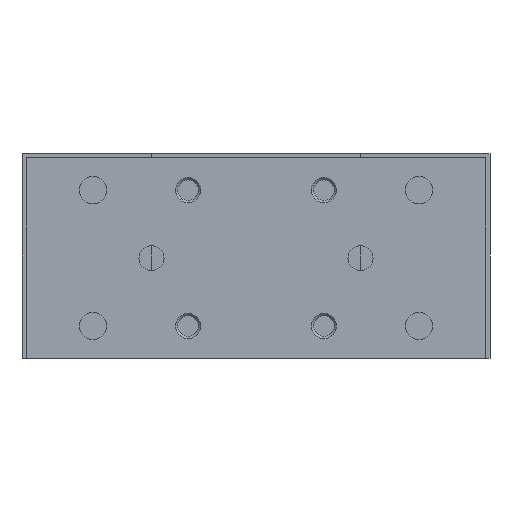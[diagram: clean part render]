
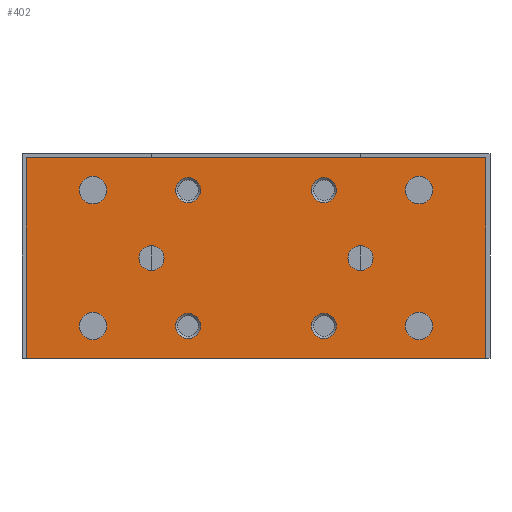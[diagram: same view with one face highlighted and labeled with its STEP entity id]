
A CAD part, left-side view. The second image highlights one B-rep face of the part: STEP entity #402.
In plain terms, the highlighted planar face has unit normal (-1, 0, 0).
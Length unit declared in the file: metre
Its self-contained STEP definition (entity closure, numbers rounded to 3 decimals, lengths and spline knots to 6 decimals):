
#402 = ADVANCED_FACE( '', ( #1049, #1050, #1051, #1052, #1053, #1054, #1055, #1056, #1057, #1058, #1059 ), #1060, .F. );
#1049 = FACE_BOUND( '', #2117, .T. );
#1050 = FACE_BOUND( '', #2118, .T. );
#1051 = FACE_BOUND( '', #2119, .T. );
#1052 = FACE_BOUND( '', #2120, .T. );
#1053 = FACE_BOUND( '', #2121, .T. );
#1054 = FACE_BOUND( '', #2122, .T. );
#1055 = FACE_BOUND( '', #2123, .T. );
#1056 = FACE_BOUND( '', #2124, .T. );
#1057 = FACE_BOUND( '', #2125, .T. );
#1058 = FACE_BOUND( '', #2126, .T. );
#1059 = FACE_OUTER_BOUND( '', #2127, .T. );
#1060 = PLANE( '', #2128 );
#2117 = EDGE_LOOP( '', ( #3344 ) );
#2118 = EDGE_LOOP( '', ( #3345 ) );
#2119 = EDGE_LOOP( '', ( #3346 ) );
#2120 = EDGE_LOOP( '', ( #3347 ) );
#2121 = EDGE_LOOP( '', ( #3348 ) );
#2122 = EDGE_LOOP( '', ( #3349 ) );
#2123 = EDGE_LOOP( '', ( #3350 ) );
#2124 = EDGE_LOOP( '', ( #3351 ) );
#2125 = EDGE_LOOP( '', ( #3352 ) );
#2126 = EDGE_LOOP( '', ( #3353 ) );
#2127 = EDGE_LOOP( '', ( #3354, #3355, #3356, #3357 ) );
#2128 = AXIS2_PLACEMENT_3D( '', #3358, #3359, #3360 );
#3344 = ORIENTED_EDGE( '', *, *, #5037, .T. );
#3345 = ORIENTED_EDGE( '', *, *, #5038, .T. );
#3346 = ORIENTED_EDGE( '', *, *, #5039, .T. );
#3347 = ORIENTED_EDGE( '', *, *, #5040, .T. );
#3348 = ORIENTED_EDGE( '', *, *, #5041, .F. );
#3349 = ORIENTED_EDGE( '', *, *, #5042, .T. );
#3350 = ORIENTED_EDGE( '', *, *, #5043, .T. );
#3351 = ORIENTED_EDGE( '', *, *, #5032, .F. );
#3352 = ORIENTED_EDGE( '', *, *, #5044, .F. );
#3353 = ORIENTED_EDGE( '', *, *, #5045, .T. );
#3354 = ORIENTED_EDGE( '', *, *, #5046, .T. );
#3355 = ORIENTED_EDGE( '', *, *, #5047, .T. );
#3356 = ORIENTED_EDGE( '', *, *, #5048, .T. );
#3357 = ORIENTED_EDGE( '', *, *, #5049, .T. );
#3358 = CARTESIAN_POINT( '', ( -0.07925, -0.055, -0.049 ) );
#3359 = DIRECTION( '', ( 1., 0., 0. ) );
#3360 = DIRECTION( '', ( 0., 1., 0. ) );
#5032 = EDGE_CURVE( '', #5822, #5822, #5823, .T. );
#5037 = EDGE_CURVE( '', #5830, #5830, #5831, .T. );
#5038 = EDGE_CURVE( '', #5832, #5832, #5833, .T. );
#5039 = EDGE_CURVE( '', #5834, #5834, #5835, .T. );
#5040 = EDGE_CURVE( '', #5836, #5836, #5837, .T. );
#5041 = EDGE_CURVE( '', #5838, #5838, #5839, .T. );
#5042 = EDGE_CURVE( '', #5840, #5840, #5841, .T. );
#5043 = EDGE_CURVE( '', #5842, #5842, #5843, .T. );
#5044 = EDGE_CURVE( '', #5844, #5844, #5845, .T. );
#5045 = EDGE_CURVE( '', #5846, #5846, #5847, .T. );
#5046 = EDGE_CURVE( '', #5848, #5849, #5850, .T. );
#5047 = EDGE_CURVE( '', #5849, #5851, #5852, .T. );
#5048 = EDGE_CURVE( '', #5851, #5853, #5854, .T. );
#5049 = EDGE_CURVE( '', #5853, #5848, #5855, .T. );
#5822 = VERTEX_POINT( '', #6908 );
#5823 = CIRCLE( '', #6909, 0.003 );
#5830 = VERTEX_POINT( '', #6916 );
#5831 = CIRCLE( '', #6917, 0.0033 );
#5832 = VERTEX_POINT( '', #6918 );
#5833 = CIRCLE( '', #6919, 0.0033 );
#5834 = VERTEX_POINT( '', #6920 );
#5835 = CIRCLE( '', #6921, 0.0033 );
#5836 = VERTEX_POINT( '', #6922 );
#5837 = CIRCLE( '', #6923, 0.0033 );
#5838 = VERTEX_POINT( '', #6924 );
#5839 = CIRCLE( '', #6925, 0.003 );
#5840 = VERTEX_POINT( '', #6926 );
#5841 = CIRCLE( '', #6927, 0.003 );
#5842 = VERTEX_POINT( '', #6928 );
#5843 = CIRCLE( '', #6929, 0.003 );
#5844 = VERTEX_POINT( '', #6930 );
#5845 = CIRCLE( '', #6931, 0.003 );
#5846 = VERTEX_POINT( '', #6932 );
#5847 = CIRCLE( '', #6933, 0.003 );
#5848 = VERTEX_POINT( '', #6934 );
#5849 = VERTEX_POINT( '', #6935 );
#5850 = LINE( '', #6936, #6937 );
#5851 = VERTEX_POINT( '', #6938 );
#5852 = LINE( '', #6939, #6940 );
#5853 = VERTEX_POINT( '', #6941 );
#5854 = LINE( '', #6942, #6943 );
#5855 = LINE( '', #6944, #6945 );
#6908 = CARTESIAN_POINT( '', ( -0.07925, 0.01325, -0.04125 ) );
#6909 = AXIS2_PLACEMENT_3D( '', #8094, #8095, #8096 );
#6916 = CARTESIAN_POINT( '', ( -0.07925, -0.0357, -0.04125 ) );
#6917 = AXIS2_PLACEMENT_3D( '', #8103, #8104, #8105 );
#6918 = CARTESIAN_POINT( '', ( -0.07925, 0.0423, -0.04125 ) );
#6919 = AXIS2_PLACEMENT_3D( '', #8106, #8107, #8108 );
#6920 = CARTESIAN_POINT( '', ( -0.07925, -0.0357, -0.00875 ) );
#6921 = AXIS2_PLACEMENT_3D( '', #8109, #8110, #8111 );
#6922 = CARTESIAN_POINT( '', ( -0.07925, 0.0423, -0.00875 ) );
#6923 = AXIS2_PLACEMENT_3D( '', #8112, #8113, #8114 );
#6924 = CARTESIAN_POINT( '', ( -0.07925, -0.025, -0.022 ) );
#6925 = AXIS2_PLACEMENT_3D( '', #8115, #8116, #8117 );
#6926 = CARTESIAN_POINT( '', ( -0.07925, 0.025, -0.022 ) );
#6927 = AXIS2_PLACEMENT_3D( '', #8118, #8119, #8120 );
#6928 = CARTESIAN_POINT( '', ( -0.07925, -0.01325, -0.04125 ) );
#6929 = AXIS2_PLACEMENT_3D( '', #8121, #8122, #8123 );
#6930 = CARTESIAN_POINT( '', ( -0.07925, -0.01325, -0.00875 ) );
#6931 = AXIS2_PLACEMENT_3D( '', #8124, #8125, #8126 );
#6932 = CARTESIAN_POINT( '', ( -0.07925, 0.01325, -0.00875 ) );
#6933 = AXIS2_PLACEMENT_3D( '', #8127, #8128, #8129 );
#6934 = CARTESIAN_POINT( '', ( -0.07925, -0.055, -0.049 ) );
#6935 = CARTESIAN_POINT( '', ( -0.07925, -0.055, -0.001 ) );
#6936 = CARTESIAN_POINT( '', ( -0.07925, -0.055, -0.049 ) );
#6937 = VECTOR( '', #8130, 1. );
#6938 = CARTESIAN_POINT( '', ( -0.07925, 0.055, -0.001 ) );
#6939 = CARTESIAN_POINT( '', ( -0.07925, -0.055, -0.001 ) );
#6940 = VECTOR( '', #8131, 1. );
#6941 = CARTESIAN_POINT( '', ( -0.07925, 0.055, -0.049 ) );
#6942 = CARTESIAN_POINT( '', ( -0.07925, 0.055, -0.001 ) );
#6943 = VECTOR( '', #8132, 1. );
#6944 = CARTESIAN_POINT( '', ( -0.07925, 0.055, -0.049 ) );
#6945 = VECTOR( '', #8133, 1. );
#8094 = CARTESIAN_POINT( '', ( -0.07925, 0.01625, -0.04125 ) );
#8095 = DIRECTION( '', ( -1., 0., 0. ) );
#8096 = DIRECTION( '', ( 0., -1., 0. ) );
#8103 = CARTESIAN_POINT( '', ( -0.07925, -0.039, -0.04125 ) );
#8104 = DIRECTION( '', ( 1., 0., 0. ) );
#8105 = DIRECTION( '', ( 0., 1., 0. ) );
#8106 = CARTESIAN_POINT( '', ( -0.07925, 0.039, -0.04125 ) );
#8107 = DIRECTION( '', ( 1., 0., 0. ) );
#8108 = DIRECTION( '', ( 0., 1., 0. ) );
#8109 = CARTESIAN_POINT( '', ( -0.07925, -0.039, -0.00875 ) );
#8110 = DIRECTION( '', ( 1., 0., 0. ) );
#8111 = DIRECTION( '', ( 0., 1., 0. ) );
#8112 = CARTESIAN_POINT( '', ( -0.07925, 0.039, -0.00875 ) );
#8113 = DIRECTION( '', ( 1., 0., 0. ) );
#8114 = DIRECTION( '', ( 0., 1., 0. ) );
#8115 = CARTESIAN_POINT( '', ( -0.07925, -0.025, -0.025 ) );
#8116 = DIRECTION( '', ( -1., 0., 0. ) );
#8117 = DIRECTION( '', ( 0., 0., 1. ) );
#8118 = CARTESIAN_POINT( '', ( -0.07925, 0.025, -0.025 ) );
#8119 = DIRECTION( '', ( 1., 0., 0. ) );
#8120 = DIRECTION( '', ( 0., 0., 1. ) );
#8121 = CARTESIAN_POINT( '', ( -0.07925, -0.01625, -0.04125 ) );
#8122 = DIRECTION( '', ( 1., 0., 0. ) );
#8123 = DIRECTION( '', ( 0., 1., 0. ) );
#8124 = CARTESIAN_POINT( '', ( -0.07925, -0.01625, -0.00875 ) );
#8125 = DIRECTION( '', ( -1., 0., 0. ) );
#8126 = DIRECTION( '', ( 0., 1., 0. ) );
#8127 = CARTESIAN_POINT( '', ( -0.07925, 0.01625, -0.00875 ) );
#8128 = DIRECTION( '', ( 1., 0., 0. ) );
#8129 = DIRECTION( '', ( 0., -1., 0. ) );
#8130 = DIRECTION( '', ( 0., 0., 1. ) );
#8131 = DIRECTION( '', ( 0., 1., 0. ) );
#8132 = DIRECTION( '', ( 0., 0., -1. ) );
#8133 = DIRECTION( '', ( 0., -1., 0. ) );
